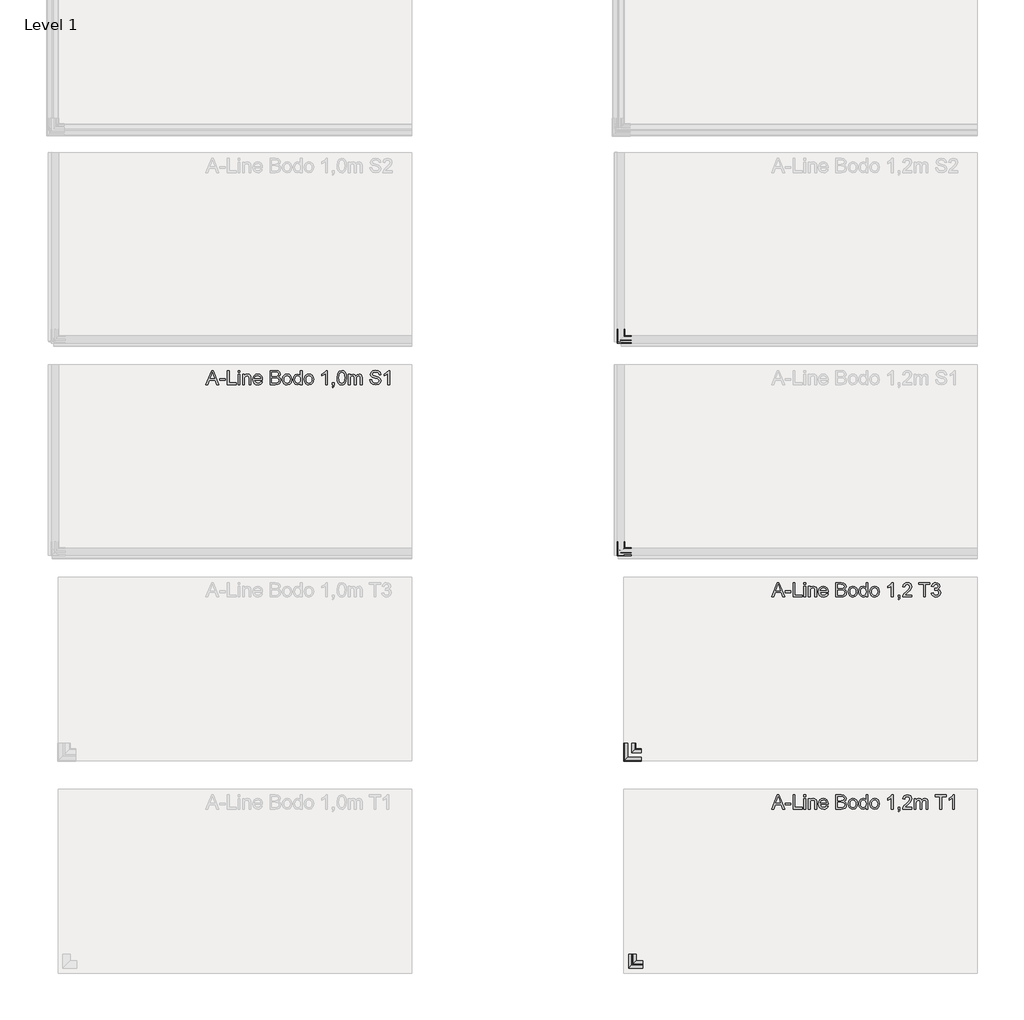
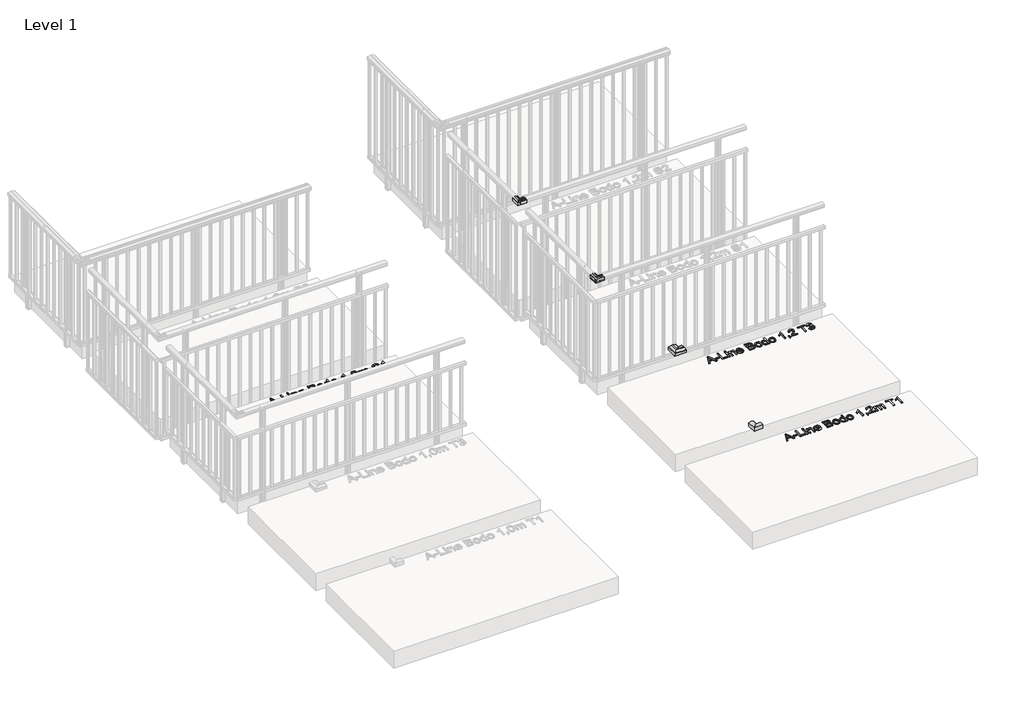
# One storey, part 49 of 66: 7 proxies.
"""IFC4 building model written with IfcOpenShell, lengths in millimetres."""

from ifc_helpers import new_model, si_unit, origin, origin_with_axes, place, context, project, spatial, polyline, outline, extrude, transform, mapped, element, save
from components import generic_models_029e0633, generic_models_224f447f

model = new_model("IFC4")

# Units and contexts
model_context = context("Model", 3, world=origin())
ifc_project = project(units=[si_unit("LENGTHUNIT", "METRE", prefix="MILLI")], contexts=[model_context])

# Site, building, storey
site = spatial("IfcSite", under=ifc_project)
building = spatial("IfcBuilding", under=site)
storey = spatial("IfcBuildingStorey", under=building, Name="Level 1", Elevation=0.0)

# Proxies
placement = place(None, origin())
generic_models_shape = generic_models_029e0633(model_context)
element("IfcBuildingElementProxy", 1, Name="Innore top rail 51x43 corner element : Innore top rail 51x43 element", ObjectType="Innore top rail 51x43 corner element : Innore top rail 51x43 element", at=placement, inside=storey, context=model_context, shape_type="MappedRepresentation", body=[
    mapped(generic_models_shape, transform((8483.61192, -16091.0355576, 1200.0), x_axis=(0.0, -1.0, 0.0), y_axis=(1.0, 0.0, 0.0), z_axis=(0.0, 0.0, 1.0))),
])
element("IfcBuildingElementProxy", 2, Name="Innore top rail 51x43 corner element : Innore top rail 51x43 element", ObjectType="Innore top rail 51x43 corner element : Innore top rail 51x43 element", at=placement, inside=storey, context=model_context, shape_type="MappedRepresentation", body=[
    mapped(generic_models_shape, transform((8564.0547322, -20508.694769, 1200.0), x_axis=(0.0, -1.0, 0.0), y_axis=(1.0, 0.0, 0.0), z_axis=(0.0, 0.0, 1.0))),
])
element("IfcBuildingElementProxy", 3, Name="Innore top rail 51x43 corner element : Innore top rail 51x43 element", ObjectType="Innore top rail 51x43 corner element : Innore top rail 51x43 element", at=placement, inside=storey, context=model_context, shape_type="MappedRepresentation", body=[
    mapped(generic_models_shape, transform((8483.61192, -17590.9416671, 1200.0), x_axis=(0.0, -1.0, 0.0), y_axis=(1.0, 0.0, 0.0), z_axis=(0.0, 0.0, 1.0))),
])
generic_models_2_shape = generic_models_224f447f(model_context)
element("IfcBuildingElementProxy", 4, Name="Innore top rail 81x35 corner element : Innore top rail 81x35 element", ObjectType="Innore top rail 81x35 corner element : Innore top rail 81x35 element", at=placement, inside=storey, context=model_context, shape_type="MappedRepresentation", body=[
    mapped(generic_models_2_shape, transform((8545.5706864, -19028.211505, 1200.0), x_axis=(0.0, -1.0, 0.0), y_axis=(1.0, 0.0, 0.0), z_axis=(0.0, 0.0, 1.0))),
])
element("IfcBuildingElementProxy", 5, Name="100mm Arial", ObjectType="100mm Arial", at=placement, inside=storey, context=model_context, shape_type="SweptSolid", body=[
    extrude(outline(polyline([(5549.8662562, -16409.7113559), (5589.9653937, -16309.2550458), (5600.658497, -16309.2550458), (5640.7576345, -16409.7113559), (5627.4893572, -16409.7113559), (5615.9869135, -16378.318759), (5574.6124518, -16378.318759), (5563.1345335, -16409.7113559), (5549.8662562, -16409.7113559)]), holes=[polyline([(5579.2232395, -16365.7617202), (5611.4006513, -16365.7617202), (5602.3507542, -16341.0645756), (5595.3119454, -16321.8120845), (5589.0579515, -16338.9063346), (5579.2232395, -16365.7617202)])]), origin_with_axes(), (0.0, 0.0, 1.0), 10.0),
    extrude(outline(polyline([(5646.3249154, -16379.8883888), (5646.3249154, -16367.3313501), (5685.5656615, -16367.3313501), (5685.5656615, -16379.8883888), (5646.3249154, -16379.8883888)])), origin_with_axes(), (0.0, 0.0, 1.0), 10.0),
    extrude(outline(polyline([(5701.26196, -16409.7113559), (5701.26196, -16309.2550458), (5713.8189988, -16309.2550458), (5713.8189988, -16397.1543171), (5764.0471538, -16397.1543171), (5764.0471538, -16409.7113559), (5701.26196, -16409.7113559)])), origin_with_axes(), (0.0, 0.0, 1.0), 10.0),
    extrude(outline(polyline([(5776.6041926, -16321.8120845), (5776.6041926, -16309.2550458), (5789.1612314, -16309.2550458), (5789.1612314, -16321.8120845), (5776.6041926, -16321.8120845)])), origin_with_axes(), (0.0, 0.0, 1.0), 10.0),
    extrude(outline(polyline([(5776.6041926, -16409.7113559), (5776.6041926, -16335.9387532), (5789.1612314, -16335.9387532), (5789.1612314, -16409.7113559), (5776.6041926, -16409.7113559)])), origin_with_axes(), (0.0, 0.0, 1.0), 10.0),
    extrude(outline(polyline([(5807.9967895, -16409.7113559), (5807.9967895, -16335.9387532), (5820.5538283, -16335.9387532), (5820.5538283, -16346.239449), (5830.1555484, -16337.3367047), (5843.2644101, -16334.3691233), (5855.1224731, -16336.7603563), (5863.215877, -16343.0388757), (5866.9805361, -16352.2727137), (5867.6427237, -16364.4128196), (5867.6427237, -16409.7113559), (5855.0856849, -16409.7113559), (5855.0856849, -16366.1050768), (5853.6386824, -16354.9950405), (5848.5251227, -16349.1211913), (5839.9044212, -16346.9261621), (5826.2805247, -16351.8557808), (5821.9855024, -16358.9988229), (5820.5538283, -16370.5687116), (5820.5538283, -16409.7113559), (5807.9967895, -16409.7113559)])), origin_with_axes(), (0.0, 0.0, 1.0), 10.0),
    extrude(outline(polyline([(5936.5592841, -16387.7365381), (5948.8710682, -16389.3061679), (5944.4350245, -16398.5829256), (5937.3563618, -16405.5175012), (5927.7944956, -16409.8401146), (5915.9088414, -16411.2809858), (5901.1751675, -16408.7947166), (5889.8382707, -16401.3359092), (5882.6093895, -16389.3889414), (5880.1997624, -16373.4381912), (5882.633915, -16356.9509464), (5889.9363726, -16344.6207682), (5901.1199852, -16336.9320345), (5915.1976029, -16334.3691233), (5928.8368279, -16336.9259032), (5939.735332, -16344.5962428), (5946.8814398, -16356.9018955), (5949.2634757, -16373.3646148), (5949.1898993, -16376.7491291), (5892.7568012, -16376.7491291), (5894.9303707, -16386.1485141), (5899.979551, -16393.0585643), (5907.2666802, -16397.3076013), (5916.1540961, -16398.723947), (5928.4658802, -16396.0997221), (5936.5592841, -16387.7365381)]), holes=[polyline([(5892.7568012, -16364.1920904), (5936.7064369, -16364.1920904), (5931.6787163, -16352.812274), (5924.3578646, -16348.3976901), (5915.148552, -16346.9261621), (5899.6852455, -16351.6227889), (5894.8200061, -16357.1134277), (5892.7568012, -16364.1920904)])]), origin_with_axes(), (0.0, 0.0, 1.0), 10.0),
    extrude(outline(polyline([(6002.6308904, -16409.7113559), (6002.6308904, -16309.2550458), (6040.9641943, -16309.2550458), (6059.7384388, -16312.2103645), (6070.8239496, -16321.2970497), (6074.8338634, -16334.1483941), (6071.4616117, -16345.8838298), (6061.2712805, -16354.7743113), (6073.6443782, -16364.1430394), (6077.973123, -16379.7657615), (6075.0178044, -16393.2670307), (6067.6969527, -16402.8810135), (6056.7708574, -16407.9823105), (6040.6698887, -16409.7113559), (6002.6308904, -16409.7113559)]), holes=[polyline([(6015.1879292, -16397.1543171), (6040.9396689, -16397.1543171), (6050.2593461, -16396.6638078), (6058.1442835, -16393.9292183), (6063.3682078, -16388.3496747), (6065.4160843, -16379.8883888), (6063.0125886, -16370.1272532), (6055.225753, -16364.302455), (6039.7133956, -16362.6224605), (6015.1879292, -16362.6224605), (6015.1879292, -16397.1543171)]), polyline([(6015.1879292, -16350.0654218), (6038.1192402, -16350.0654218), (6051.5101449, -16348.9863012), (6059.5667606, -16344.3387254), (6062.2768246, -16336.1594823), (6059.7507016, -16327.9679766), (6052.515689, -16323.124197), (6036.3779321, -16321.8120845), (6015.1879292, -16321.8120845), (6015.1879292, -16350.0654218)])]), origin_with_axes(), (0.0, 0.0, 1.0), 10.0),
    extrude(outline(polyline([(6090.5301618, -16372.8250545), (6093.2463572, -16355.0379601), (6101.3949434, -16342.5361036), (6111.4626473, -16336.4108684), (6123.5169141, -16334.3691233), (6136.7085493, -16336.8553925), (6147.2453027, -16344.3141999), (6154.1522872, -16356.1569345), (6156.4546154, -16371.7949849), (6152.3833879, -16394.1376848), (6140.525325, -16406.7805627), (6123.5169141, -16411.2809858), (6110.1658633, -16408.8039137), (6099.6413726, -16401.3726974), (6092.8079645, -16389.2816425), (6090.5301618, -16372.8250545)]), holes=[polyline([(6103.0872006, -16372.8005291), (6104.5403345, -16384.165017), (6108.8997361, -16392.2614866), (6115.4602984, -16397.1083319), (6123.5169141, -16398.723947), (6131.5367415, -16397.0991348), (6138.0850411, -16392.2246984), (6142.4444427, -16384.0209299), (6143.8975766, -16372.4081216), (6142.4352457, -16361.3747274), (6138.0482529, -16353.3886225), (6131.4907563, -16348.5417772), (6123.5169141, -16346.9261621), (6115.4602984, -16348.5356458), (6108.8997361, -16353.364097), (6104.5403345, -16361.4421725), (6103.0872006, -16372.8005291)])]), origin_with_axes(), (0.0, 0.0, 1.0), 10.0),
    extrude(outline(polyline([(6216.1005495, -16409.7113559), (6216.1005495, -16397.8655557), (6207.7925478, -16407.9271282), (6196.3084982, -16411.2809858), (6180.7593525, -16406.4249434), (6169.7719436, -16392.8746233), (6165.8723944, -16372.8986309), (6169.4653753, -16352.9103759), (6180.232055, -16339.1515892), (6196.2594472, -16334.3691233), (6207.8354673, -16337.7904259), (6216.1005495, -16346.6809074), (6216.1005495, -16309.2550458), (6228.6575883, -16309.2550458), (6228.6575883, -16409.7113559), (6216.1005495, -16409.7113559)]), holes=[polyline([(6178.4294332, -16372.84958), (6179.8457789, -16384.2079366), (6184.0948159, -16392.2860121), (6190.2691021, -16397.1144633), (6197.4611951, -16398.723947), (6204.6502224, -16397.1880397), (6210.6681587, -16392.5803177), (6214.7424518, -16384.8149419), (6216.1005495, -16373.8060732), (6214.7179263, -16361.7702006), (6210.5700568, -16353.4254107), (6204.3988364, -16348.5509742), (6196.9461603, -16346.9261621), (6189.6804909, -16348.4865949), (6183.7269339, -16353.1678933), (6179.7538084, -16361.2091805), (6178.4294332, -16372.84958)])]), origin_with_axes(), (0.0, 0.0, 1.0), 10.0),
    extrude(outline(polyline([(6244.3538867, -16372.8250545), (6247.0700821, -16355.0379601), (6255.2186683, -16342.5361036), (6265.2863723, -16336.4108684), (6277.340639, -16334.3691233), (6290.5322742, -16336.8553925), (6301.0690277, -16344.3141999), (6307.9760121, -16356.1569345), (6310.2783403, -16371.7949849), (6306.2071129, -16394.1376848), (6294.3490499, -16406.7805627), (6277.340639, -16411.2809858), (6263.9895882, -16408.8039137), (6253.4650975, -16401.3726974), (6246.6316894, -16389.2816425), (6244.3538867, -16372.8250545)]), holes=[polyline([(6256.9109255, -16372.8005291), (6258.3640594, -16384.165017), (6262.723461, -16392.2614866), (6269.2840233, -16397.1083319), (6277.340639, -16398.723947), (6285.3604665, -16397.0991348), (6291.908766, -16392.2246984), (6296.2681676, -16384.0209299), (6297.7213015, -16372.4081216), (6296.2589706, -16361.3747274), (6291.8719778, -16353.3886225), (6285.3144812, -16348.5417772), (6277.340639, -16346.9261621), (6269.2840233, -16348.5356458), (6262.723461, -16353.364097), (6258.3640594, -16361.4421725), (6256.9109255, -16372.8005291)])]), origin_with_axes(), (0.0, 0.0, 1.0), 10.0),
    extrude(outline(polyline([(6407.5953907, -16409.7113559), (6395.038352, -16409.7113559), (6395.038352, -16331.4260673), (6383.1435008, -16339.899616), (6369.9242744, -16346.239449), (6369.9242744, -16334.3691233), (6388.3306369, -16322.6214249), (6399.5019868, -16309.2550458), (6407.5953907, -16309.2550458), (6407.5953907, -16409.7113559)])), origin_with_axes(), (0.0, 0.0, 1.0), 10.0),
    extrude(outline(polyline([(6443.6968772, -16409.7113559), (6443.6968772, -16397.1543171), (6456.253916, -16397.1543171), (6456.253916, -16409.7113559), (6453.9975731, -16422.5504375), (6446.8361369, -16430.1165439), (6443.6968772, -16425.4076544), (6448.3076649, -16419.9875263), (6449.9508711, -16409.7113559), (6443.6968772, -16409.7113559)])), origin_with_axes(), (0.0, 0.0, 1.0), 10.0),
    extrude(outline(polyline([(6476.659104, -16360.2925412), (6480.3501866, -16331.3892791), (6491.3130701, -16314.7242248), (6509.6213307, -16309.2550458), (6524.2875596, -16312.4924073), (6534.4165772, -16321.8243473), (6540.3026891, -16336.6867799), (6542.5835575, -16360.2925412), (6538.929263, -16389.073176), (6528.0031677, -16405.7750186), (6519.7718081, -16409.904494), (6509.6213307, -16411.2809858), (6496.5737826, -16408.8897528), (6486.6654942, -16401.7160539), (6479.1607015, -16384.7260371), (6476.659104, -16360.2925412)]), holes=[polyline([(6489.2161427, -16360.2680158), (6490.6876707, -16380.0202132), (6495.1022546, -16391.4521462), (6501.6750796, -16396.9059968), (6509.6213307, -16398.723947), (6517.5675818, -16396.8998654), (6524.1404068, -16391.4276208), (6528.5549907, -16379.9895564), (6530.0265187, -16360.2680158), (6528.6040417, -16340.9603424), (6524.3366105, -16329.4395046), (6517.7760483, -16323.7189395), (6509.4741779, -16321.8120845), (6501.613766, -16323.492079), (6495.2984584, -16328.5320623), (6490.7367216, -16340.77027), (6489.2161427, -16360.2680158)])]), origin_with_axes(), (0.0, 0.0, 1.0), 10.0),
    extrude(outline(polyline([(6556.7102261, -16409.7113559), (6556.7102261, -16335.9387532), (6569.2672649, -16335.9387532), (6569.2672649, -16348.078859), (6577.900229, -16338.1337824), (6590.1874877, -16334.3691233), (6602.7690519, -16338.2073588), (6609.6852334, -16348.9617758), (6619.4831572, -16338.0172864), (6631.856255, -16334.3691233), (6641.2954938, -16335.8866365), (6648.2760547, -16340.4391762), (6652.5894711, -16348.1493697), (6654.0272766, -16359.1398443), (6654.0272766, -16409.7113559), (6641.4702378, -16409.7113559), (6641.4702378, -16364.5354469), (6640.3052781, -16354.05081), (6636.0868979, -16348.8881994), (6628.913199, -16346.9261621), (6616.5646267, -16351.9538827), (6612.8766097, -16358.4960508), (6611.6472707, -16368.0671141), (6611.6472707, -16409.7113559), (6599.090232, -16409.7113559), (6599.090232, -16363.1374953), (6596.1839642, -16350.972864), (6586.6558205, -16346.9261621), (6577.3606688, -16349.6239634), (6571.1802513, -16357.5211635), (6569.2672649, -16372.5062235), (6569.2672649, -16409.7113559), (6556.7102261, -16409.7113559)])), origin_with_axes(), (0.0, 0.0, 1.0), 10.0),
    extrude(outline(polyline([(6708.9643212, -16375.1794993), (6721.5213599, -16375.1794993), (6725.5680619, -16387.7488008), (6735.4518248, -16395.6950519), (6750.5104612, -16398.723947), (6763.6315857, -16396.4308159), (6772.1051343, -16390.127771), (6774.8887747, -16381.7032734), (6772.8041101, -16373.8673869), (6764.2692478, -16368.1652159), (6745.9855126, -16363.3704873), (6726.3038259, -16357.177807), (6715.6229853, -16347.8336043), (6712.1035809, -16335.350142), (6716.4568511, -16321.1376342), (6729.1733054, -16311.1067185), (6747.7881344, -16307.6854159), (6767.6537621, -16311.266134), (6780.897514, -16321.7875591), (6785.8761836, -16337.508383), (6773.3191449, -16337.508383), (6771.013751, -16330.015853), (6766.2067596, -16324.6079877), (6748.2786437, -16320.2424547), (6730.3014769, -16324.5589368), (6724.6606196, -16334.98226), (6728.6582707, -16343.6888005), (6749.1615605, -16350.7030839), (6771.381633, -16357.0061287), (6783.5340016, -16367.1841973), (6787.4458135, -16381.3844423), (6782.9453904, -16396.4062904), (6769.9959442, -16407.3691739), (6751.0009705, -16411.2809858), (6728.5724315, -16407.0626056), (6714.3844492, -16394.358414), (6708.9643212, -16375.1794993)])), origin_with_axes(), (0.0, 0.0, 1.0), 10.0),
    extrude(outline(polyline([(6848.6613775, -16409.7113559), (6836.1043387, -16409.7113559), (6836.1043387, -16331.4260673), (6824.2094875, -16339.899616), (6810.9902612, -16346.239449), (6810.9902612, -16334.3691233), (6829.3966237, -16322.6214249), (6840.5679736, -16309.2550458), (6848.6613775, -16309.2550458), (6848.6613775, -16409.7113559)])), origin_with_axes(), (0.0, 0.0, 1.0), 10.0),
])
element("IfcBuildingElementProxy", 6, Name="100mm Arial", ObjectType="100mm Arial", at=placement, inside=storey, context=model_context, shape_type="SweptSolid", body=[
    extrude(outline(polyline([(9549.8662562, -19409.7113559), (9589.9653937, -19309.2550458), (9600.658497, -19309.2550458), (9640.7576345, -19409.7113559), (9627.4893572, -19409.7113559), (9615.9869135, -19378.318759), (9574.6124518, -19378.318759), (9563.1345335, -19409.7113559), (9549.8662562, -19409.7113559)]), holes=[polyline([(9579.2232395, -19365.7617202), (9611.4006513, -19365.7617202), (9602.3507542, -19341.0645756), (9595.3119454, -19321.8120845), (9589.0579515, -19338.9063346), (9579.2232395, -19365.7617202)])]), origin_with_axes(), (0.0, 0.0, 1.0), 10.0),
    extrude(outline(polyline([(9646.3249154, -19379.8883888), (9646.3249154, -19367.3313501), (9685.5656615, -19367.3313501), (9685.5656615, -19379.8883888), (9646.3249154, -19379.8883888)])), origin_with_axes(), (0.0, 0.0, 1.0), 10.0),
    extrude(outline(polyline([(9701.26196, -19409.7113559), (9701.26196, -19309.2550458), (9713.8189988, -19309.2550458), (9713.8189988, -19397.1543171), (9764.0471538, -19397.1543171), (9764.0471538, -19409.7113559), (9701.26196, -19409.7113559)])), origin_with_axes(), (0.0, 0.0, 1.0), 10.0),
    extrude(outline(polyline([(9776.6041926, -19321.8120845), (9776.6041926, -19309.2550458), (9789.1612314, -19309.2550458), (9789.1612314, -19321.8120845), (9776.6041926, -19321.8120845)])), origin_with_axes(), (0.0, 0.0, 1.0), 10.0),
    extrude(outline(polyline([(9776.6041926, -19409.7113559), (9776.6041926, -19335.9387532), (9789.1612314, -19335.9387532), (9789.1612314, -19409.7113559), (9776.6041926, -19409.7113559)])), origin_with_axes(), (0.0, 0.0, 1.0), 10.0),
    extrude(outline(polyline([(9807.9967895, -19409.7113559), (9807.9967895, -19335.9387532), (9820.5538283, -19335.9387532), (9820.5538283, -19346.239449), (9830.1555484, -19337.3367047), (9843.2644101, -19334.3691233), (9855.1224731, -19336.7603563), (9863.215877, -19343.0388757), (9866.9805361, -19352.2727137), (9867.6427237, -19364.4128196), (9867.6427237, -19409.7113559), (9855.0856849, -19409.7113559), (9855.0856849, -19366.1050768), (9853.6386824, -19354.9950405), (9848.5251227, -19349.1211913), (9839.9044212, -19346.9261621), (9826.2805247, -19351.8557808), (9821.9855024, -19358.9988229), (9820.5538283, -19370.5687116), (9820.5538283, -19409.7113559), (9807.9967895, -19409.7113559)])), origin_with_axes(), (0.0, 0.0, 1.0), 10.0),
    extrude(outline(polyline([(9936.5592841, -19387.7365381), (9948.8710682, -19389.3061679), (9944.4350245, -19398.5829256), (9937.3563618, -19405.5175012), (9927.7944956, -19409.8401146), (9915.9088414, -19411.2809858), (9901.1751675, -19408.7947166), (9889.8382707, -19401.3359092), (9882.6093895, -19389.3889414), (9880.1997624, -19373.4381912), (9882.633915, -19356.9509464), (9889.9363726, -19344.6207682), (9901.1199852, -19336.9320345), (9915.1976029, -19334.3691233), (9928.8368279, -19336.9259032), (9939.735332, -19344.5962428), (9946.8814398, -19356.9018955), (9949.2634757, -19373.3646148), (9949.1898993, -19376.7491291), (9892.7568012, -19376.7491291), (9894.9303707, -19386.1485141), (9899.979551, -19393.0585643), (9907.2666802, -19397.3076013), (9916.1540961, -19398.723947), (9928.4658802, -19396.0997221), (9936.5592841, -19387.7365381)]), holes=[polyline([(9892.7568012, -19364.1920904), (9936.7064369, -19364.1920904), (9931.6787163, -19352.812274), (9924.3578646, -19348.3976901), (9915.148552, -19346.9261621), (9899.6852455, -19351.6227889), (9894.8200061, -19357.1134277), (9892.7568012, -19364.1920904)])]), origin_with_axes(), (0.0, 0.0, 1.0), 10.0),
    extrude(outline(polyline([(10002.6308904, -19409.7113559), (10002.6308904, -19309.2550458), (10040.9641943, -19309.2550458), (10059.7384388, -19312.2103645), (10070.8239496, -19321.2970497), (10074.8338634, -19334.1483941), (10071.4616117, -19345.8838298), (10061.2712805, -19354.7743113), (10073.6443782, -19364.1430394), (10077.973123, -19379.7657615), (10075.0178044, -19393.2670307), (10067.6969527, -19402.8810135), (10056.7708574, -19407.9823105), (10040.6698887, -19409.7113559), (10002.6308904, -19409.7113559)]), holes=[polyline([(10015.1879292, -19397.1543171), (10040.9396689, -19397.1543171), (10050.2593461, -19396.6638078), (10058.1442835, -19393.9292183), (10063.3682078, -19388.3496747), (10065.4160843, -19379.8883888), (10063.0125886, -19370.1272532), (10055.225753, -19364.302455), (10039.7133956, -19362.6224605), (10015.1879292, -19362.6224605), (10015.1879292, -19397.1543171)]), polyline([(10015.1879292, -19350.0654218), (10038.1192402, -19350.0654218), (10051.5101449, -19348.9863012), (10059.5667606, -19344.3387254), (10062.2768246, -19336.1594823), (10059.7507016, -19327.9679766), (10052.515689, -19323.124197), (10036.3779321, -19321.8120845), (10015.1879292, -19321.8120845), (10015.1879292, -19350.0654218)])]), origin_with_axes(), (0.0, 0.0, 1.0), 10.0),
    extrude(outline(polyline([(10090.5301618, -19372.8250545), (10093.2463572, -19355.0379601), (10101.3949434, -19342.5361036), (10111.4626473, -19336.4108684), (10123.5169141, -19334.3691233), (10136.7085493, -19336.8553925), (10147.2453027, -19344.3141999), (10154.1522872, -19356.1569345), (10156.4546154, -19371.7949849), (10152.3833879, -19394.1376848), (10140.525325, -19406.7805627), (10123.5169141, -19411.2809858), (10110.1658633, -19408.8039137), (10099.6413726, -19401.3726974), (10092.8079645, -19389.2816425), (10090.5301618, -19372.8250545)]), holes=[polyline([(10103.0872006, -19372.8005291), (10104.5403345, -19384.165017), (10108.8997361, -19392.2614866), (10115.4602984, -19397.1083319), (10123.5169141, -19398.723947), (10131.5367415, -19397.0991348), (10138.0850411, -19392.2246984), (10142.4444427, -19384.0209299), (10143.8975766, -19372.4081216), (10142.4352457, -19361.3747274), (10138.0482529, -19353.3886225), (10131.4907563, -19348.5417772), (10123.5169141, -19346.9261621), (10115.4602984, -19348.5356458), (10108.8997361, -19353.364097), (10104.5403345, -19361.4421725), (10103.0872006, -19372.8005291)])]), origin_with_axes(), (0.0, 0.0, 1.0), 10.0),
    extrude(outline(polyline([(10216.1005495, -19409.7113559), (10216.1005495, -19397.8655557), (10207.7925478, -19407.9271282), (10196.3084982, -19411.2809858), (10180.7593525, -19406.4249434), (10169.7719436, -19392.8746233), (10165.8723944, -19372.8986309), (10169.4653753, -19352.9103759), (10180.232055, -19339.1515892), (10196.2594472, -19334.3691233), (10207.8354673, -19337.7904259), (10216.1005495, -19346.6809074), (10216.1005495, -19309.2550458), (10228.6575883, -19309.2550458), (10228.6575883, -19409.7113559), (10216.1005495, -19409.7113559)]), holes=[polyline([(10178.4294332, -19372.84958), (10179.8457789, -19384.2079366), (10184.0948159, -19392.2860121), (10190.2691021, -19397.1144633), (10197.4611951, -19398.723947), (10204.6502224, -19397.1880397), (10210.6681587, -19392.5803177), (10214.7424518, -19384.8149419), (10216.1005495, -19373.8060732), (10214.7179263, -19361.7702006), (10210.5700568, -19353.4254107), (10204.3988364, -19348.5509742), (10196.9461603, -19346.9261621), (10189.6804909, -19348.4865949), (10183.7269339, -19353.1678933), (10179.7538084, -19361.2091805), (10178.4294332, -19372.84958)])]), origin_with_axes(), (0.0, 0.0, 1.0), 10.0),
    extrude(outline(polyline([(10244.3538867, -19372.8250545), (10247.0700821, -19355.0379601), (10255.2186683, -19342.5361036), (10265.2863723, -19336.4108684), (10277.340639, -19334.3691233), (10290.5322742, -19336.8553925), (10301.0690277, -19344.3141999), (10307.9760121, -19356.1569345), (10310.2783403, -19371.7949849), (10306.2071129, -19394.1376848), (10294.3490499, -19406.7805627), (10277.340639, -19411.2809858), (10263.9895882, -19408.8039137), (10253.4650975, -19401.3726974), (10246.6316894, -19389.2816425), (10244.3538867, -19372.8250545)]), holes=[polyline([(10256.9109255, -19372.8005291), (10258.3640594, -19384.165017), (10262.723461, -19392.2614866), (10269.2840233, -19397.1083319), (10277.340639, -19398.723947), (10285.3604665, -19397.0991348), (10291.908766, -19392.2246984), (10296.2681676, -19384.0209299), (10297.7213015, -19372.4081216), (10296.2589706, -19361.3747274), (10291.8719778, -19353.3886225), (10285.3144812, -19348.5417772), (10277.340639, -19346.9261621), (10269.2840233, -19348.5356458), (10262.723461, -19353.364097), (10258.3640594, -19361.4421725), (10256.9109255, -19372.8005291)])]), origin_with_axes(), (0.0, 0.0, 1.0), 10.0),
    extrude(outline(polyline([(10407.5953907, -19409.7113559), (10395.038352, -19409.7113559), (10395.038352, -19331.4260673), (10383.1435008, -19339.899616), (10369.9242744, -19346.239449), (10369.9242744, -19334.3691233), (10388.3306369, -19322.6214249), (10399.5019868, -19309.2550458), (10407.5953907, -19309.2550458), (10407.5953907, -19409.7113559)])), origin_with_axes(), (0.0, 0.0, 1.0), 10.0),
    extrude(outline(polyline([(10443.6968772, -19409.7113559), (10443.6968772, -19397.1543171), (10456.253916, -19397.1543171), (10456.253916, -19409.7113559), (10453.9975731, -19422.5504375), (10446.8361369, -19430.1165439), (10443.6968772, -19425.4076544), (10448.3076649, -19419.9875263), (10449.9508711, -19409.7113559), (10443.6968772, -19409.7113559)])), origin_with_axes(), (0.0, 0.0, 1.0), 10.0),
    extrude(outline(polyline([(10541.0139276, -19397.1543171), (10541.0139276, -19409.7113559), (10475.0894741, -19409.7113559), (10476.4383748, -19401.0538663), (10484.0657948, -19387.7242753), (10499.7866187, -19373.1684111), (10521.467131, -19352.2481883), (10526.887259, -19338.0234178), (10521.7736993, -19326.5087113), (10508.4195829, -19321.8120845), (10494.5013807, -19326.3983467), (10489.2161427, -19339.0780128), (10476.659104, -19337.508383), (10479.7033275, -19325.3621458), (10486.2853495, -19316.4900583), (10496.0618135, -19311.0637989), (10508.689363, -19309.2550458), (10521.408883, -19311.266134), (10531.1669529, -19317.2993987), (10537.3749616, -19326.3125076), (10539.4442978, -19337.2631283), (10537.2124804, -19349.1702422), (10529.7935268, -19361.4820263), (10511.8040972, -19378.686641), (10497.3585976, -19390.7654332), (10491.6932148, -19397.1543171), (10541.0139276, -19397.1543171)])), origin_with_axes(), (0.0, 0.0, 1.0), 10.0),
    extrude(outline(polyline([(10556.7102261, -19409.7113559), (10556.7102261, -19335.9387532), (10569.2672649, -19335.9387532), (10569.2672649, -19348.078859), (10577.900229, -19338.1337824), (10590.1874877, -19334.3691233), (10602.7690519, -19338.2073588), (10609.6852334, -19348.9617758), (10619.4831572, -19338.0172864), (10631.856255, -19334.3691233), (10641.2954938, -19335.8866365), (10648.2760547, -19340.4391762), (10652.5894711, -19348.1493697), (10654.0272766, -19359.1398443), (10654.0272766, -19409.7113559), (10641.4702378, -19409.7113559), (10641.4702378, -19364.5354469), (10640.3052781, -19354.05081), (10636.0868979, -19348.8881994), (10628.913199, -19346.9261621), (10616.5646267, -19351.9538827), (10612.8766097, -19358.4960508), (10611.6472707, -19368.0671141), (10611.6472707, -19409.7113559), (10599.090232, -19409.7113559), (10599.090232, -19363.1374953), (10596.1839642, -19350.972864), (10586.6558205, -19346.9261621), (10577.3606688, -19349.6239634), (10571.1802513, -19357.5211635), (10569.2672649, -19372.5062235), (10569.2672649, -19409.7113559), (10556.7102261, -19409.7113559)])), origin_with_axes(), (0.0, 0.0, 1.0), 10.0),
    extrude(outline(polyline([(10738.7872883, -19409.7113559), (10738.7872883, -19321.8120845), (10705.8250615, -19321.8120845), (10705.8250615, -19309.2550458), (10784.3065538, -19309.2550458), (10784.3065538, -19321.8120845), (10751.344327, -19321.8120845), (10751.344327, -19409.7113559), (10738.7872883, -19409.7113559)])), origin_with_axes(), (0.0, 0.0, 1.0), 10.0),
    extrude(outline(polyline([(10840.8132282, -19409.7113559), (10828.2561895, -19409.7113559), (10828.2561895, -19331.4260673), (10816.3613383, -19339.899616), (10803.1421119, -19346.239449), (10803.1421119, -19334.3691233), (10821.5484744, -19322.6214249), (10832.7198244, -19309.2550458), (10840.8132282, -19309.2550458), (10840.8132282, -19409.7113559)])), origin_with_axes(), (0.0, 0.0, 1.0), 10.0),
])
element("IfcBuildingElementProxy", 7, Name="100mm Arial", ObjectType="100mm Arial", at=placement, inside=storey, context=model_context, shape_type="SweptSolid", body=[
    extrude(outline(polyline([(9549.8662562, -17909.7113559), (9589.9653937, -17809.2550458), (9600.658497, -17809.2550458), (9640.7576345, -17909.7113559), (9627.4893572, -17909.7113559), (9615.9869135, -17878.318759), (9574.6124518, -17878.318759), (9563.1345335, -17909.7113559), (9549.8662562, -17909.7113559)]), holes=[polyline([(9579.2232395, -17865.7617202), (9611.4006513, -17865.7617202), (9602.3507542, -17841.0645756), (9595.3119454, -17821.8120845), (9589.0579515, -17838.9063346), (9579.2232395, -17865.7617202)])]), origin_with_axes(), (0.0, 0.0, 1.0), 10.0),
    extrude(outline(polyline([(9646.3249154, -17879.8883888), (9646.3249154, -17867.3313501), (9685.5656615, -17867.3313501), (9685.5656615, -17879.8883888), (9646.3249154, -17879.8883888)])), origin_with_axes(), (0.0, 0.0, 1.0), 10.0),
    extrude(outline(polyline([(9701.26196, -17909.7113559), (9701.26196, -17809.2550458), (9713.8189988, -17809.2550458), (9713.8189988, -17897.1543171), (9764.0471538, -17897.1543171), (9764.0471538, -17909.7113559), (9701.26196, -17909.7113559)])), origin_with_axes(), (0.0, 0.0, 1.0), 10.0),
    extrude(outline(polyline([(9776.6041926, -17821.8120845), (9776.6041926, -17809.2550458), (9789.1612314, -17809.2550458), (9789.1612314, -17821.8120845), (9776.6041926, -17821.8120845)])), origin_with_axes(), (0.0, 0.0, 1.0), 10.0),
    extrude(outline(polyline([(9776.6041926, -17909.7113559), (9776.6041926, -17835.9387532), (9789.1612314, -17835.9387532), (9789.1612314, -17909.7113559), (9776.6041926, -17909.7113559)])), origin_with_axes(), (0.0, 0.0, 1.0), 10.0),
    extrude(outline(polyline([(9807.9967895, -17909.7113559), (9807.9967895, -17835.9387532), (9820.5538283, -17835.9387532), (9820.5538283, -17846.239449), (9830.1555484, -17837.3367047), (9843.2644101, -17834.3691233), (9855.1224731, -17836.7603563), (9863.215877, -17843.0388757), (9866.9805361, -17852.2727137), (9867.6427237, -17864.4128196), (9867.6427237, -17909.7113559), (9855.0856849, -17909.7113559), (9855.0856849, -17866.1050768), (9853.6386824, -17854.9950405), (9848.5251227, -17849.1211913), (9839.9044212, -17846.9261621), (9826.2805247, -17851.8557808), (9821.9855024, -17858.9988229), (9820.5538283, -17870.5687116), (9820.5538283, -17909.7113559), (9807.9967895, -17909.7113559)])), origin_with_axes(), (0.0, 0.0, 1.0), 10.0),
    extrude(outline(polyline([(9936.5592841, -17887.7365381), (9948.8710682, -17889.3061679), (9944.4350245, -17898.5829256), (9937.3563618, -17905.5175012), (9927.7944956, -17909.8401146), (9915.9088414, -17911.2809858), (9901.1751675, -17908.7947166), (9889.8382707, -17901.3359092), (9882.6093895, -17889.3889414), (9880.1997624, -17873.4381912), (9882.633915, -17856.9509464), (9889.9363726, -17844.6207682), (9901.1199852, -17836.9320345), (9915.1976029, -17834.3691233), (9928.8368279, -17836.9259032), (9939.735332, -17844.5962428), (9946.8814398, -17856.9018955), (9949.2634757, -17873.3646148), (9949.1898993, -17876.7491291), (9892.7568012, -17876.7491291), (9894.9303707, -17886.1485141), (9899.979551, -17893.0585643), (9907.2666802, -17897.3076013), (9916.1540961, -17898.723947), (9928.4658802, -17896.0997221), (9936.5592841, -17887.7365381)]), holes=[polyline([(9892.7568012, -17864.1920904), (9936.7064369, -17864.1920904), (9931.6787163, -17852.812274), (9924.3578646, -17848.3976901), (9915.148552, -17846.9261621), (9899.6852455, -17851.6227889), (9894.8200061, -17857.1134277), (9892.7568012, -17864.1920904)])]), origin_with_axes(), (0.0, 0.0, 1.0), 10.0),
    extrude(outline(polyline([(10002.6308904, -17909.7113559), (10002.6308904, -17809.2550458), (10040.9641943, -17809.2550458), (10059.7384388, -17812.2103645), (10070.8239496, -17821.2970497), (10074.8338634, -17834.1483941), (10071.4616117, -17845.8838298), (10061.2712805, -17854.7743113), (10073.6443782, -17864.1430394), (10077.973123, -17879.7657615), (10075.0178044, -17893.2670307), (10067.6969527, -17902.8810135), (10056.7708574, -17907.9823105), (10040.6698887, -17909.7113559), (10002.6308904, -17909.7113559)]), holes=[polyline([(10015.1879292, -17897.1543171), (10040.9396689, -17897.1543171), (10050.2593461, -17896.6638078), (10058.1442835, -17893.9292183), (10063.3682078, -17888.3496747), (10065.4160843, -17879.8883888), (10063.0125886, -17870.1272532), (10055.225753, -17864.302455), (10039.7133956, -17862.6224605), (10015.1879292, -17862.6224605), (10015.1879292, -17897.1543171)]), polyline([(10015.1879292, -17850.0654218), (10038.1192402, -17850.0654218), (10051.5101449, -17848.9863012), (10059.5667606, -17844.3387254), (10062.2768246, -17836.1594823), (10059.7507016, -17827.9679766), (10052.515689, -17823.124197), (10036.3779321, -17821.8120845), (10015.1879292, -17821.8120845), (10015.1879292, -17850.0654218)])]), origin_with_axes(), (0.0, 0.0, 1.0), 10.0),
    extrude(outline(polyline([(10090.5301618, -17872.8250545), (10093.2463572, -17855.0379601), (10101.3949434, -17842.5361036), (10111.4626473, -17836.4108684), (10123.5169141, -17834.3691233), (10136.7085493, -17836.8553925), (10147.2453027, -17844.3141999), (10154.1522872, -17856.1569345), (10156.4546154, -17871.7949849), (10152.3833879, -17894.1376848), (10140.525325, -17906.7805627), (10123.5169141, -17911.2809858), (10110.1658633, -17908.8039137), (10099.6413726, -17901.3726974), (10092.8079645, -17889.2816425), (10090.5301618, -17872.8250545)]), holes=[polyline([(10103.0872006, -17872.8005291), (10104.5403345, -17884.165017), (10108.8997361, -17892.2614866), (10115.4602984, -17897.1083319), (10123.5169141, -17898.723947), (10131.5367415, -17897.0991348), (10138.0850411, -17892.2246984), (10142.4444427, -17884.0209299), (10143.8975766, -17872.4081216), (10142.4352457, -17861.3747274), (10138.0482529, -17853.3886225), (10131.4907563, -17848.5417772), (10123.5169141, -17846.9261621), (10115.4602984, -17848.5356458), (10108.8997361, -17853.364097), (10104.5403345, -17861.4421725), (10103.0872006, -17872.8005291)])]), origin_with_axes(), (0.0, 0.0, 1.0), 10.0),
    extrude(outline(polyline([(10216.1005495, -17909.7113559), (10216.1005495, -17897.8655557), (10207.7925478, -17907.9271282), (10196.3084982, -17911.2809858), (10180.7593525, -17906.4249434), (10169.7719436, -17892.8746233), (10165.8723944, -17872.8986309), (10169.4653753, -17852.9103759), (10180.232055, -17839.1515892), (10196.2594472, -17834.3691233), (10207.8354673, -17837.7904259), (10216.1005495, -17846.6809074), (10216.1005495, -17809.2550458), (10228.6575883, -17809.2550458), (10228.6575883, -17909.7113559), (10216.1005495, -17909.7113559)]), holes=[polyline([(10178.4294332, -17872.84958), (10179.8457789, -17884.2079366), (10184.0948159, -17892.2860121), (10190.2691021, -17897.1144633), (10197.4611951, -17898.723947), (10204.6502224, -17897.1880397), (10210.6681587, -17892.5803177), (10214.7424518, -17884.8149419), (10216.1005495, -17873.8060732), (10214.7179263, -17861.7702006), (10210.5700568, -17853.4254107), (10204.3988364, -17848.5509742), (10196.9461603, -17846.9261621), (10189.6804909, -17848.4865949), (10183.7269339, -17853.1678933), (10179.7538084, -17861.2091805), (10178.4294332, -17872.84958)])]), origin_with_axes(), (0.0, 0.0, 1.0), 10.0),
    extrude(outline(polyline([(10244.3538867, -17872.8250545), (10247.0700821, -17855.0379601), (10255.2186683, -17842.5361036), (10265.2863723, -17836.4108684), (10277.340639, -17834.3691233), (10290.5322742, -17836.8553925), (10301.0690277, -17844.3141999), (10307.9760121, -17856.1569345), (10310.2783403, -17871.7949849), (10306.2071129, -17894.1376848), (10294.3490499, -17906.7805627), (10277.340639, -17911.2809858), (10263.9895882, -17908.8039137), (10253.4650975, -17901.3726974), (10246.6316894, -17889.2816425), (10244.3538867, -17872.8250545)]), holes=[polyline([(10256.9109255, -17872.8005291), (10258.3640594, -17884.165017), (10262.723461, -17892.2614866), (10269.2840233, -17897.1083319), (10277.340639, -17898.723947), (10285.3604665, -17897.0991348), (10291.908766, -17892.2246984), (10296.2681676, -17884.0209299), (10297.7213015, -17872.4081216), (10296.2589706, -17861.3747274), (10291.8719778, -17853.3886225), (10285.3144812, -17848.5417772), (10277.340639, -17846.9261621), (10269.2840233, -17848.5356458), (10262.723461, -17853.364097), (10258.3640594, -17861.4421725), (10256.9109255, -17872.8005291)])]), origin_with_axes(), (0.0, 0.0, 1.0), 10.0),
    extrude(outline(polyline([(10407.5953907, -17909.7113559), (10395.038352, -17909.7113559), (10395.038352, -17831.4260673), (10383.1435008, -17839.899616), (10369.9242744, -17846.239449), (10369.9242744, -17834.3691233), (10388.3306369, -17822.6214249), (10399.5019868, -17809.2550458), (10407.5953907, -17809.2550458), (10407.5953907, -17909.7113559)])), origin_with_axes(), (0.0, 0.0, 1.0), 10.0),
    extrude(outline(polyline([(10443.6968772, -17909.7113559), (10443.6968772, -17897.1543171), (10456.253916, -17897.1543171), (10456.253916, -17909.7113559), (10453.9975731, -17922.5504375), (10446.8361369, -17930.1165439), (10443.6968772, -17925.4076544), (10448.3076649, -17919.9875263), (10449.9508711, -17909.7113559), (10443.6968772, -17909.7113559)])), origin_with_axes(), (0.0, 0.0, 1.0), 10.0),
    extrude(outline(polyline([(10541.0139276, -17897.1543171), (10541.0139276, -17909.7113559), (10475.0894741, -17909.7113559), (10476.4383748, -17901.0538663), (10484.0657948, -17887.7242753), (10499.7866187, -17873.1684111), (10521.467131, -17852.2481883), (10526.887259, -17838.0234178), (10521.7736993, -17826.5087113), (10508.4195829, -17821.8120845), (10494.5013807, -17826.3983467), (10489.2161427, -17839.0780128), (10476.659104, -17837.508383), (10479.7033275, -17825.3621458), (10486.2853495, -17816.4900583), (10496.0618135, -17811.0637989), (10508.689363, -17809.2550458), (10521.408883, -17811.266134), (10531.1669529, -17817.2993987), (10537.3749616, -17826.3125076), (10539.4442978, -17837.2631283), (10537.2124804, -17849.1702422), (10529.7935268, -17861.4820263), (10511.8040972, -17878.686641), (10497.3585976, -17890.7654332), (10491.6932148, -17897.1543171), (10541.0139276, -17897.1543171)])), origin_with_axes(), (0.0, 0.0, 1.0), 10.0),
    extrude(outline(polyline([(10622.6346796, -17909.7113559), (10622.6346796, -17821.8120845), (10589.6724529, -17821.8120845), (10589.6724529, -17809.2550458), (10668.1539452, -17809.2550458), (10668.1539452, -17821.8120845), (10635.1917184, -17821.8120845), (10635.1917184, -17909.7113559), (10622.6346796, -17909.7113559)])), origin_with_axes(), (0.0, 0.0, 1.0), 10.0),
    extrude(outline(polyline([(10677.5717243, -17883.0276485), (10690.128763, -17881.4580187), (10697.0572073, -17894.677245), (10710.0189162, -17898.723947), (10718.6273549, -17897.3321268), (10725.2737563, -17893.1566661), (10730.939139, -17879.373354), (10725.3228072, -17866.3871196), (10711.0489858, -17861.2490344), (10702.2443434, -17862.6224605), (10703.642295, -17850.0654218), (10705.6533832, -17850.2125746), (10719.9026792, -17846.607331), (10724.6483569, -17842.0333315), (10726.2302495, -17835.5218202), (10721.6439873, -17825.699371), (10709.8227125, -17821.8120845), (10697.8542849, -17825.7361592), (10691.6983929, -17837.508383), (10679.1413541, -17835.9387532), (10682.8385682, -17824.66317), (10689.4175245, -17816.2448037), (10698.4183706, -17811.0024852), (10709.3812541, -17809.2550458), (10724.5257296, -17812.7008738), (10735.120731, -17822.1186529), (10738.7872883, -17834.7860562), (10735.304672, -17846.3620763), (10725.0039762, -17854.6762094), (10738.6891864, -17863.2601227), (10743.4961778, -17879.5940832), (10741.0926821, -17891.832291), (10733.882195, -17902.0594104), (10722.9990193, -17908.9755919), (10709.5774578, -17911.2809858), (10697.437352, -17909.3128171), (10687.5535891, -17903.4083111), (10680.6803271, -17894.3768081), (10677.5717243, -17883.0276485)])), origin_with_axes(), (0.0, 0.0, 1.0), 10.0),
])

save(model, "model.ifc")
